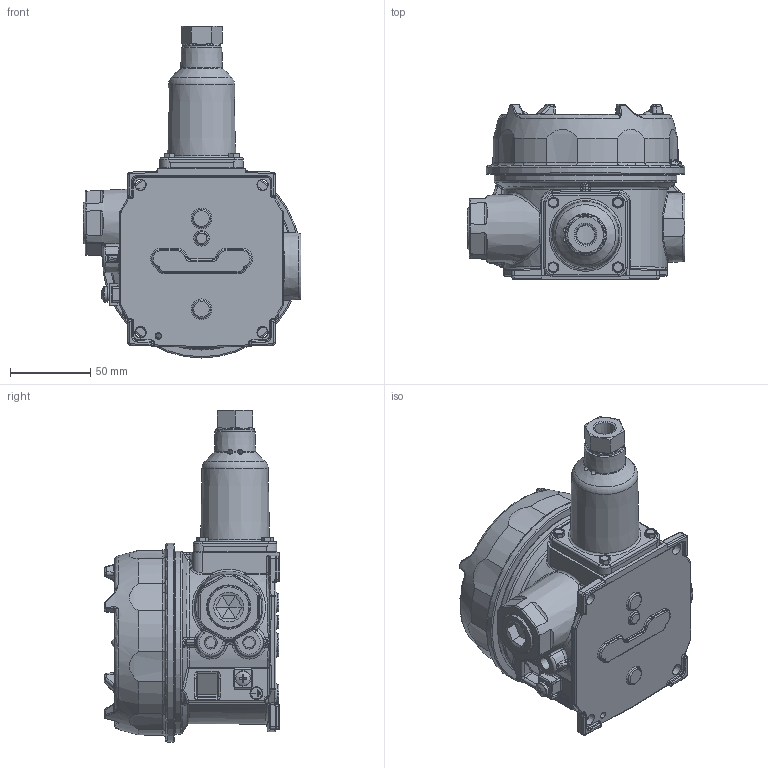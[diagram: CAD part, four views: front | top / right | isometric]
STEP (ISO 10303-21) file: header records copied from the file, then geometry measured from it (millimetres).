
FILE_DESCRIPTION (( 'STEP AP214' ), '1' );
FILE_NAME ('J120-270_274_V1.STEP', '2025-03-13T19:03:29', ( '' ), ( '' ), 'SwSTEP 2.0', 'SolidWorks 2023', '' );
FILE_SCHEMA (( 'AUTOMOTIVE_DESIGN' ));
Length unit declared in the file: inch
Products named in the file (1): J120-270_274_V1
Bounding box: 135.89 x 109.35 x 207.14 mm (x, y, z)
Surface area: 92522.2 mm2 (no closed solid volume)
Topology: 0 solids, 22 shells, 979 faces, 2513 edges, 1481 vertices
Faces by surface type: bspline 241, plane 218, cylinder 203, torus 151, cone 134, sphere 32
Full cylindrical faces by diameter (mm): 3.175 x2, 3.22 x1, 5.556 x4, 7.366 x1, 7.874 x1, 9.5 x1, 23.812 x1, 23.876 x1, 87.312 x1, 114.046 x1, 123.952 x1
Entity records: 39974 total; most frequent: CARTESIAN_POINT 19345, ORIENTED_EDGE 4395, DIRECTION 3919, EDGE_CURVE 2373, AXIS2_PLACEMENT_3D 1645, VERTEX_POINT 1454, EDGE_LOOP 1107, FACE_OUTER_BOUND 1020
